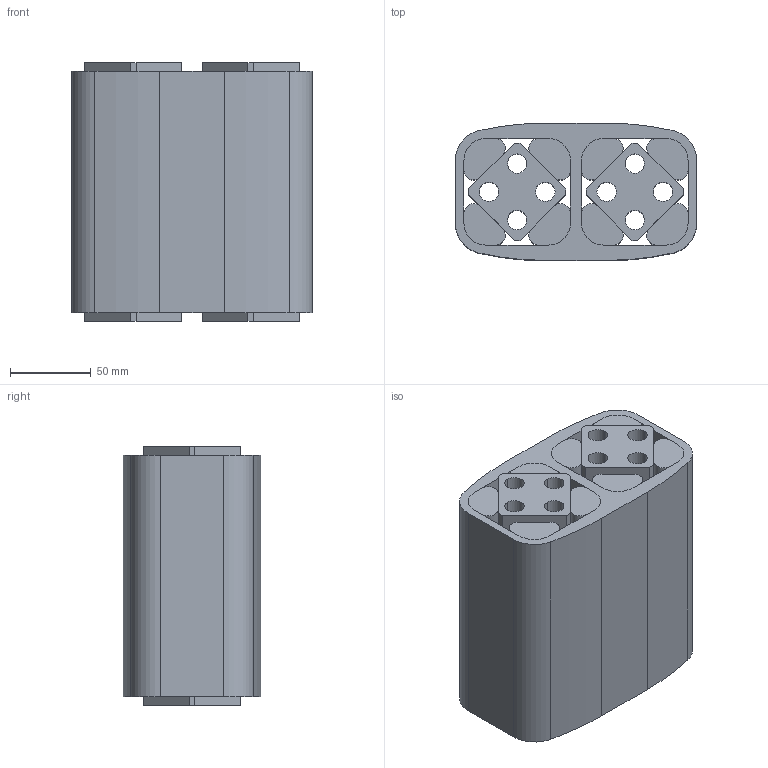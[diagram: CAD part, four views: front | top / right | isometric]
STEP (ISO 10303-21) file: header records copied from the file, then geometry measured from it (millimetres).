
FILE_DESCRIPTION((''),'2;1');
FILE_NAME('D:\ROSTA\Gummifederelemente\3D\DO-A45x150_01041015.stp','2005-02-09T16:49:58',('Administrator'),(''),'Autodesk Inventor 8','Autodesk Inventor 8','');
FILE_SCHEMA(('AUTOMOTIVE_DESIGN { 1 0 10303 214 1 1 1 1 }'));
Length unit declared in the file: millimetre
Products named in the file (4): Baugruppe1; 3.4.6554-009; 3.4.6554-010; 3.4.6554-011
Assembly tree (11 placements, depth 2):
  Baugruppe1
    3.4.6554-009
    3.4.6554-010  x2
    3.4.6554-011  x8
Bounding box: 149.4 x 85 x 160 mm (x, y, z)
Volume: 1574826.3 mm3; surface area: 357485.4 mm2
Topology: 11 solids, 11 shells, 130 faces, 324 edges, 216 vertices
Faces by surface type: plane 74, cylinder 56
Entity records: 1959 total; most frequent: DIRECTION 346, CARTESIAN_POINT 321, ORIENTED_EDGE 300, EDGE_CURVE 150, AXIS2_PLACEMENT_3D 125, VERTEX_POINT 100, VECTOR 96, LINE 96
